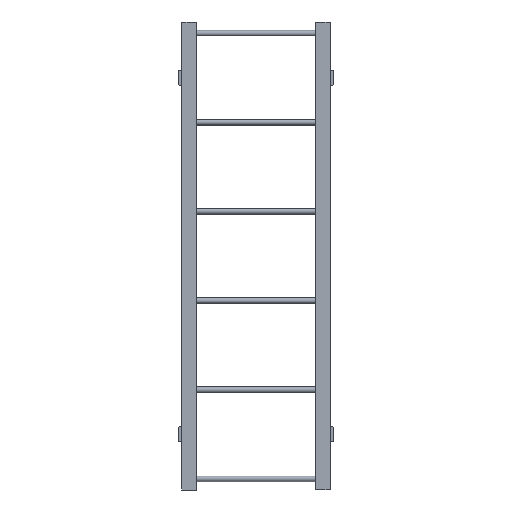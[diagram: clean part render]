
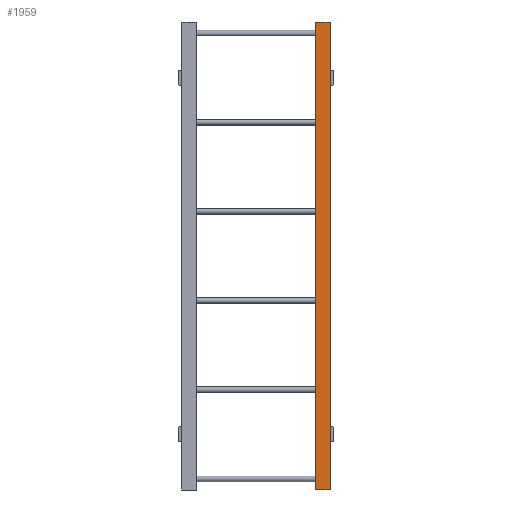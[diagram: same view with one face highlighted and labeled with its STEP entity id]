
A CAD part, left-side view. The second image highlights one B-rep face of the part: STEP entity #1959.
In plain terms, the highlighted planar face has unit normal (-1, 0, 0).
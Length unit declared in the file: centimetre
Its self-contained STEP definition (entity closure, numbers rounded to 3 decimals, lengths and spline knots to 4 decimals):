
#68=LINE('',#3027,#222);
#69=LINE('',#3029,#223);
#70=LINE('',#3031,#224);
#71=LINE('',#3032,#225);
#222=VECTOR('',#2465,5.08);
#223=VECTOR('',#2466,160.02);
#224=VECTOR('',#2467,5.08);
#225=VECTOR('',#2468,160.02);
#351=PLANE('',#2118);
#488=FACE_OUTER_BOUND('',#617,.T.);
#617=EDGE_LOOP('',(#1421,#1422,#1423,#1424));
#890=VERTEX_POINT('',#3025);
#891=VERTEX_POINT('',#3026);
#892=VERTEX_POINT('',#3028);
#893=VERTEX_POINT('',#3030);
#1095=EDGE_CURVE('',#890,#891,#68,.T.);
#1096=EDGE_CURVE('',#892,#891,#69,.T.);
#1097=EDGE_CURVE('',#893,#892,#70,.T.);
#1098=EDGE_CURVE('',#893,#890,#71,.T.);
#1421=ORIENTED_EDGE('',*,*,#1095,.T.);
#1422=ORIENTED_EDGE('',*,*,#1096,.F.);
#1423=ORIENTED_EDGE('',*,*,#1097,.F.);
#1424=ORIENTED_EDGE('',*,*,#1098,.T.);
#1959=ADVANCED_FACE('',(#488),#351,.T.);
#2118=AXIS2_PLACEMENT_3D('',#3024,#2463,#2464);
#2463=DIRECTION('center_axis',(-1.,0.,0.));
#2464=DIRECTION('ref_axis',(0.,0.,-1.));
#2465=DIRECTION('',(0.,-1.,0.));
#2466=DIRECTION('',(0.,0.,-1.));
#2467=DIRECTION('',(0.,-1.,0.));
#2468=DIRECTION('',(0.,0.,-1.));
#3024=CARTESIAN_POINT('Origin',(0.,-40.64,
160.02));
#3025=CARTESIAN_POINT('',(0.,-40.64,0.));
#3026=CARTESIAN_POINT('',(0.,-45.72,0.));
#3027=CARTESIAN_POINT('',(0.,-40.64,0.));
#3028=CARTESIAN_POINT('',(0.,-45.72,160.02));
#3029=CARTESIAN_POINT('',(0.,-45.72,160.02));
#3030=CARTESIAN_POINT('',(0.,-40.64,160.02));
#3031=CARTESIAN_POINT('',(0.,-40.64,160.02));
#3032=CARTESIAN_POINT('',(0.,-40.64,160.02));
